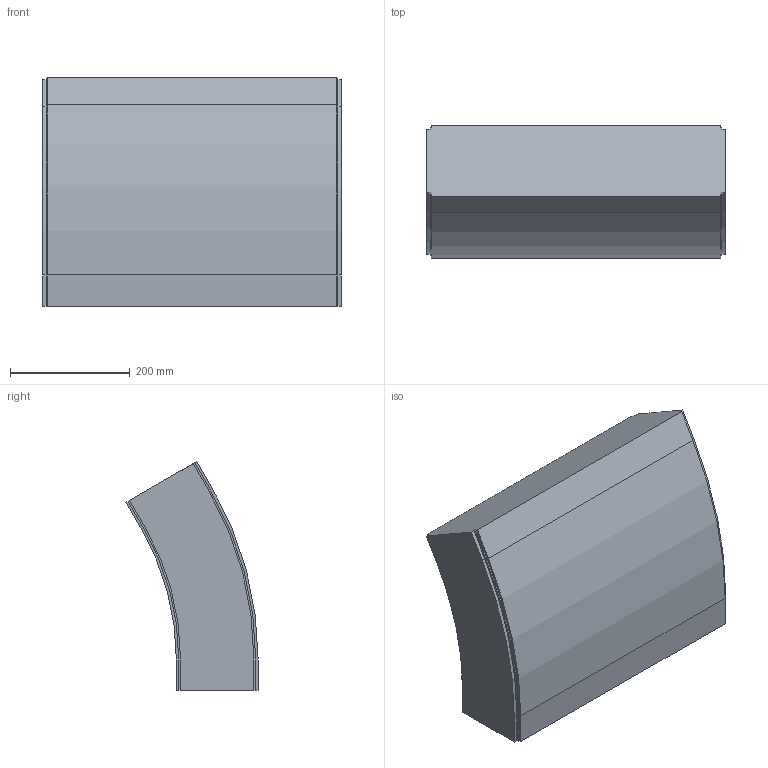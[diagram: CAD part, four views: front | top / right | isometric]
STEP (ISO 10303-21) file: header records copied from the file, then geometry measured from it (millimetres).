
FILE_DESCRIPTION (( 'STEP AP214' ), '1' );
FILE_NAME ('FS-MTC2-150-INOX verticaalbocht.500 30°.STEP', '2017-02-08T12:42:42', ( '' ), ( '' ), 'SwSTEP 2.0', 'SolidWorks 2016', '' );
FILE_SCHEMA (( 'AUTOMOTIVE_DESIGN' ));
Length unit declared in the file: millimetre
Products named in the file (1): FS-MTC2-150-INOX verticaalbocht.500 30°
Bounding box: 499 x 220.59 x 382.09 mm (x, y, z)
Volume: 24909456.5 mm3; surface area: 602022.6 mm2
Topology: 1 solids, 1 shells, 42 faces, 120 edges, 80 vertices
Faces by surface type: plane 32, cylinder 10
Entity records: 1398 total; most frequent: CARTESIAN_POINT 243, ORIENTED_EDGE 240, DIRECTION 226, EDGE_CURVE 120, LINE 100, VECTOR 100, VERTEX_POINT 80, AXIS2_PLACEMENT_3D 63
